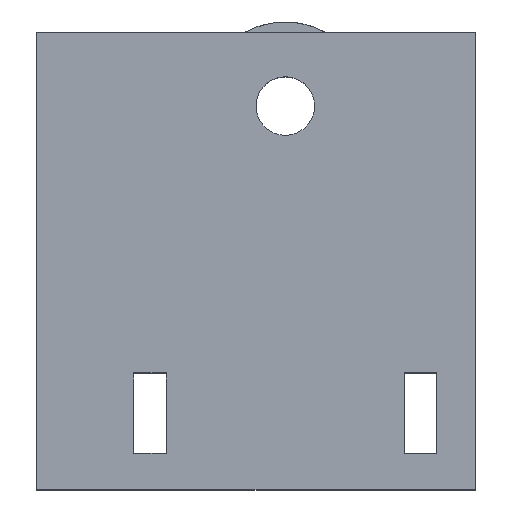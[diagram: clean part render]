
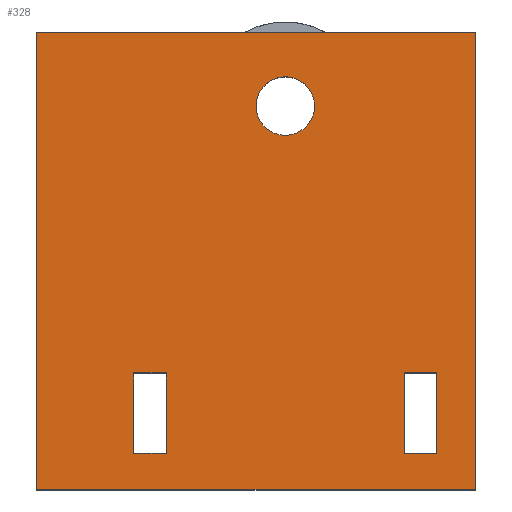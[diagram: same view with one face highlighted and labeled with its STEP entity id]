
A CAD part, top view. The second image highlights one B-rep face of the part: STEP entity #328.
In plain terms, the highlighted planar face has unit normal (0, 0, 1).
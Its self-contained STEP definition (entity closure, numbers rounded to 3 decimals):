
#22 = VERTEX_POINT('',#23);
#23 = CARTESIAN_POINT('',(-36.8,114.,63.));
#31 = EDGE_CURVE('',#22,#32,#34,.T.);
#32 = VERTEX_POINT('',#33);
#33 = CARTESIAN_POINT('',(-36.8,126.5,63.));
#34 = LINE('',#35,#36);
#35 = CARTESIAN_POINT('',(-36.8,114.,63.));
#36 = VECTOR('',#37,1.);
#37 = DIRECTION('',(0.,1.,0.));
#61 = EDGE_CURVE('',#22,#62,#64,.T.);
#62 = VERTEX_POINT('',#63);
#63 = CARTESIAN_POINT('',(-48.8,114.,63.));
#64 = LINE('',#65,#66);
#65 = CARTESIAN_POINT('',(-36.8,114.,63.));
#66 = VECTOR('',#67,1.);
#67 = DIRECTION('',(-1.,0.,0.));
#286 = VERTEX_POINT('',#287);
#287 = CARTESIAN_POINT('',(-48.8,126.5,63.));
#293 = EDGE_CURVE('',#32,#286,#294,.T.);
#294 = LINE('',#295,#296);
#295 = CARTESIAN_POINT('',(-36.8,126.5,63.));
#296 = VECTOR('',#297,1.);
#297 = DIRECTION('',(-1.,0.,0.));
#328 = ADVANCED_FACE('',(#329,#340,#374,#408),#419,.F.);
#329 = FACE_BOUND('',#330,.F.);
#330 = EDGE_LOOP('',(#331,#332,#333,#339));
#331 = ORIENTED_EDGE('',*,*,#31,.F.);
#332 = ORIENTED_EDGE('',*,*,#61,.T.);
#333 = ORIENTED_EDGE('',*,*,#334,.T.);
#334 = EDGE_CURVE('',#62,#286,#335,.T.);
#335 = LINE('',#336,#337);
#336 = CARTESIAN_POINT('',(-48.8,114.,63.));
#337 = VECTOR('',#338,1.);
#338 = DIRECTION('',(0.,1.,0.));
#339 = ORIENTED_EDGE('',*,*,#293,.F.);
#340 = FACE_BOUND('',#341,.F.);
#341 = EDGE_LOOP('',(#342,#352,#360,#368));
#342 = ORIENTED_EDGE('',*,*,#343,.T.);
#343 = EDGE_CURVE('',#344,#346,#348,.T.);
#344 = VERTEX_POINT('',#345);
#345 = CARTESIAN_POINT('',(-38.75,115.,63.));
#346 = VERTEX_POINT('',#347);
#347 = CARTESIAN_POINT('',(-37.85,115.,63.));
#348 = LINE('',#349,#350);
#349 = CARTESIAN_POINT('',(-37.325,115.,63.));
#350 = VECTOR('',#351,1.);
#351 = DIRECTION('',(1.,0.,0.));
#352 = ORIENTED_EDGE('',*,*,#353,.T.);
#353 = EDGE_CURVE('',#346,#354,#356,.T.);
#354 = VERTEX_POINT('',#355);
#355 = CARTESIAN_POINT('',(-37.85,117.2,63.));
#356 = LINE('',#357,#358);
#357 = CARTESIAN_POINT('',(-37.85,114.5,63.));
#358 = VECTOR('',#359,1.);
#359 = DIRECTION('',(0.,1.,0.));
#360 = ORIENTED_EDGE('',*,*,#361,.F.);
#361 = EDGE_CURVE('',#362,#354,#364,.T.);
#362 = VERTEX_POINT('',#363);
#363 = CARTESIAN_POINT('',(-38.75,117.2,63.));
#364 = LINE('',#365,#366);
#365 = CARTESIAN_POINT('',(-37.325,117.2,63.));
#366 = VECTOR('',#367,1.);
#367 = DIRECTION('',(1.,0.,0.));
#368 = ORIENTED_EDGE('',*,*,#369,.F.);
#369 = EDGE_CURVE('',#344,#362,#370,.T.);
#370 = LINE('',#371,#372);
#371 = CARTESIAN_POINT('',(-38.75,114.5,63.));
#372 = VECTOR('',#373,1.);
#373 = DIRECTION('',(0.,1.,0.));
#374 = FACE_BOUND('',#375,.F.);
#375 = EDGE_LOOP('',(#376,#386,#394,#402));
#376 = ORIENTED_EDGE('',*,*,#377,.T.);
#377 = EDGE_CURVE('',#378,#380,#382,.T.);
#378 = VERTEX_POINT('',#379);
#379 = CARTESIAN_POINT('',(-46.15,115.,63.));
#380 = VERTEX_POINT('',#381);
#381 = CARTESIAN_POINT('',(-45.25,115.,63.));
#382 = LINE('',#383,#384);
#383 = CARTESIAN_POINT('',(-41.025,115.,63.));
#384 = VECTOR('',#385,1.);
#385 = DIRECTION('',(1.,0.,0.));
#386 = ORIENTED_EDGE('',*,*,#387,.T.);
#387 = EDGE_CURVE('',#380,#388,#390,.T.);
#388 = VERTEX_POINT('',#389);
#389 = CARTESIAN_POINT('',(-45.25,117.2,63.));
#390 = LINE('',#391,#392);
#391 = CARTESIAN_POINT('',(-45.25,114.5,63.));
#392 = VECTOR('',#393,1.);
#393 = DIRECTION('',(0.,1.,0.));
#394 = ORIENTED_EDGE('',*,*,#395,.F.);
#395 = EDGE_CURVE('',#396,#388,#398,.T.);
#396 = VERTEX_POINT('',#397);
#397 = CARTESIAN_POINT('',(-46.15,117.2,63.));
#398 = LINE('',#399,#400);
#399 = CARTESIAN_POINT('',(-41.025,117.2,63.));
#400 = VECTOR('',#401,1.);
#401 = DIRECTION('',(1.,0.,0.));
#402 = ORIENTED_EDGE('',*,*,#403,.F.);
#403 = EDGE_CURVE('',#378,#396,#404,.T.);
#404 = LINE('',#405,#406);
#405 = CARTESIAN_POINT('',(-46.15,114.5,63.));
#406 = VECTOR('',#407,1.);
#407 = DIRECTION('',(0.,1.,0.));
#408 = FACE_BOUND('',#409,.F.);
#409 = EDGE_LOOP('',(#410));
#410 = ORIENTED_EDGE('',*,*,#411,.F.);
#411 = EDGE_CURVE('',#412,#412,#414,.T.);
#412 = VERTEX_POINT('',#413);
#413 = CARTESIAN_POINT('',(-42.8,124.5,63.));
#414 = CIRCLE('',#415,0.8);
#415 = AXIS2_PLACEMENT_3D('',#416,#417,#418);
#416 = CARTESIAN_POINT('',(-42.,124.5,63.));
#417 = DIRECTION('',(0.,0.,-1.));
#418 = DIRECTION('',(-1.,0.,0.));
#419 = PLANE('',#420);
#420 = AXIS2_PLACEMENT_3D('',#421,#422,#423);
#421 = CARTESIAN_POINT('',(-36.8,114.,63.));
#422 = DIRECTION('',(0.,0.,-1.));
#423 = DIRECTION('',(-1.,0.,0.));
